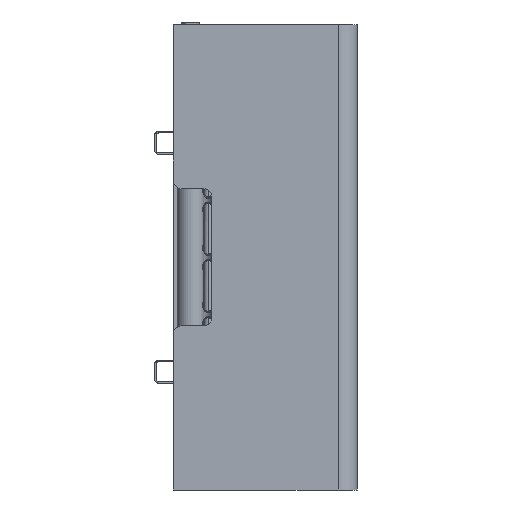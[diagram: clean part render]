
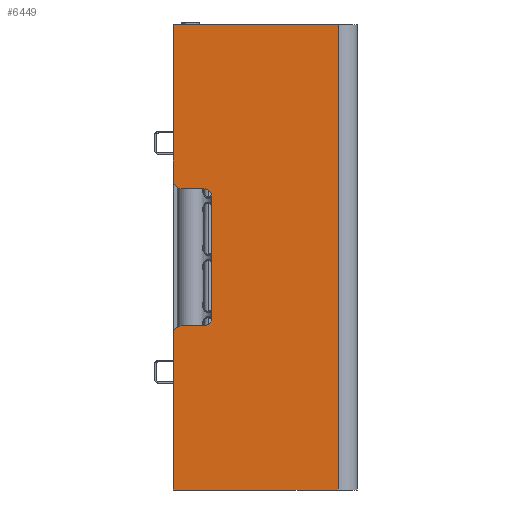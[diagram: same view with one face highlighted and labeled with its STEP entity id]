
A CAD part, front view. The second image highlights one B-rep face of the part: STEP entity #6449.
In plain terms, the highlighted planar face has unit normal (0, -1, 0).
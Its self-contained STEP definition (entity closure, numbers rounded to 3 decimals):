
#237 = LINE ( 'NONE', #22029, #19982 ) ;
#393 = VERTEX_POINT ( 'NONE', #16750 ) ;
#578 = DIRECTION ( 'NONE',  ( 0., 1., 0. ) ) ;
#664 = ORIENTED_EDGE ( 'NONE', *, *, #21180, .F. ) ;
#805 = CARTESIAN_POINT ( 'NONE',  ( 100., 0., 10. ) ) ;
#874 = EDGE_CURVE ( 'NONE', #12837, #21382, #2546, .T. ) ;
#910 = CARTESIAN_POINT ( 'NONE',  ( -80., 0., 50. ) ) ;
#1222 = VERTEX_POINT ( 'NONE', #3086 ) ;
#1744 = DIRECTION ( 'NONE',  ( 0., -1., 0. ) ) ;
#1998 = LINE ( 'NONE', #23759, #3424 ) ;
#2240 = VECTOR ( 'NONE', #10724, 1000. ) ;
#2368 = VERTEX_POINT ( 'NONE', #19361 ) ;
#2546 = LINE ( 'NONE', #15492, #12255 ) ;
#2606 = CARTESIAN_POINT ( 'NONE',  ( 90., 0., 40. ) ) ;
#2870 = EDGE_CURVE ( 'NONE', #6662, #1222, #6514, .T. ) ;
#3086 = CARTESIAN_POINT ( 'NONE',  ( 100., 0., 0. ) ) ;
#3205 = VERTEX_POINT ( 'NONE', #4247 ) ;
#3424 = VECTOR ( 'NONE', #8994, 1000. ) ;
#4075 = CARTESIAN_POINT ( 'NONE',  ( 305., 0., 216. ) ) ;
#4247 = CARTESIAN_POINT ( 'NONE',  ( -90., 0., 40. ) ) ;
#4534 = CIRCLE ( 'NONE', #21926, 10. ) ;
#4767 = ORIENTED_EDGE ( 'NONE', *, *, #19039, .T. ) ;
#4895 = ORIENTED_EDGE ( 'NONE', *, *, #6517, .F. ) ;
#5084 = DIRECTION ( 'NONE',  ( 0., -1., 0. ) ) ;
#5201 = EDGE_CURVE ( 'NONE', #2368, #18599, #12662, .T. ) ;
#6449 = ADVANCED_FACE ( 'NONE', ( #16374 ), #18307, .T. ) ;
#6514 = CIRCLE ( 'NONE', #8046, 10. ) ;
#6517 = EDGE_CURVE ( 'NONE', #17111, #22902, #13105, .T. ) ;
#6662 = VERTEX_POINT ( 'NONE', #22646 ) ;
#7221 = EDGE_CURVE ( 'NONE', #18599, #21382, #16685, .T. ) ;
#7390 = ORIENTED_EDGE ( 'NONE', *, *, #874, .F. ) ;
#7860 = EDGE_LOOP ( 'NONE', ( #10925, #22009, #16583, #16322, #19146, #7390, #664, #4767, #15238, #14715, #4895, #18933 ) ) ;
#7954 = CARTESIAN_POINT ( 'NONE',  ( -80., 0., 40. ) ) ;
#8046 = AXIS2_PLACEMENT_3D ( 'NONE', #805, #20873, #9630 ) ;
#8475 = CARTESIAN_POINT ( 'NONE',  ( -305., 0., 216. ) ) ;
#8793 = AXIS2_PLACEMENT_3D ( 'NONE', #7954, #578, #12073 ) ;
#8994 = DIRECTION ( 'NONE',  ( -1., 0., 0. ) ) ;
#9061 = CARTESIAN_POINT ( 'NONE',  ( 305., 0., 216. ) ) ;
#9208 = VECTOR ( 'NONE', #20223, 1000. ) ;
#9630 = DIRECTION ( 'NONE',  ( 0., 0., -1. ) ) ;
#9835 = VECTOR ( 'NONE', #23600, 1000. ) ;
#10173 = DIRECTION ( 'NONE',  ( 0., 0., -1. ) ) ;
#10347 = CIRCLE ( 'NONE', #14235, 10. ) ;
#10724 = DIRECTION ( 'NONE',  ( 0., 0., 1. ) ) ;
#10775 = DIRECTION ( 'NONE',  ( 0., 0., -1. ) ) ;
#10925 = ORIENTED_EDGE ( 'NONE', *, *, #10997, .T. ) ;
#10997 = EDGE_CURVE ( 'NONE', #23478, #6662, #15991, .T. ) ;
#11231 = CARTESIAN_POINT ( 'NONE',  ( -90., 0., 10. ) ) ;
#11333 = DIRECTION ( 'NONE',  ( 0., 0., -1. ) ) ;
#11365 = DIRECTION ( 'NONE',  ( -1., 0., 0. ) ) ;
#11998 = CARTESIAN_POINT ( 'NONE',  ( -100., 0., 10. ) ) ;
#12073 = DIRECTION ( 'NONE',  ( 0., 0., -1. ) ) ;
#12255 = VECTOR ( 'NONE', #20560, 1000. ) ;
#12662 = LINE ( 'NONE', #19904, #2240 ) ;
#12837 = VERTEX_POINT ( 'NONE', #22278 ) ;
#13105 = LINE ( 'NONE', #16610, #9208 ) ;
#14235 = AXIS2_PLACEMENT_3D ( 'NONE', #11998, #5084, #10775 ) ;
#14263 = EDGE_CURVE ( 'NONE', #3205, #22902, #15353, .T. ) ;
#14501 = EDGE_CURVE ( 'NONE', #17111, #23478, #4534, .T. ) ;
#14715 = ORIENTED_EDGE ( 'NONE', *, *, #14263, .T. ) ;
#14836 = CARTESIAN_POINT ( 'NONE',  ( 80., 0., 50. ) ) ;
#14912 = VECTOR ( 'NONE', #10173, 1000. ) ;
#15190 = DIRECTION ( 'NONE',  ( 0., 0., -1. ) ) ;
#15238 = ORIENTED_EDGE ( 'NONE', *, *, #23451, .F. ) ;
#15353 = CIRCLE ( 'NONE', #8793, 10. ) ;
#15428 = LINE ( 'NONE', #20980, #16217 ) ;
#15492 = CARTESIAN_POINT ( 'NONE',  ( -305., 0., 0. ) ) ;
#15991 = LINE ( 'NONE', #17561, #14912 ) ;
#16217 = VECTOR ( 'NONE', #15190, 1000. ) ;
#16322 = ORIENTED_EDGE ( 'NONE', *, *, #5201, .T. ) ;
#16374 = FACE_OUTER_BOUND ( 'NONE', #7860, .T. ) ;
#16583 = ORIENTED_EDGE ( 'NONE', *, *, #20127, .F. ) ;
#16610 = CARTESIAN_POINT ( 'NONE',  ( 90., 0., 50. ) ) ;
#16685 = LINE ( 'NONE', #9061, #9835 ) ;
#16750 = CARTESIAN_POINT ( 'NONE',  ( -100., 0., 0. ) ) ;
#17111 = VERTEX_POINT ( 'NONE', #14836 ) ;
#17561 = CARTESIAN_POINT ( 'NONE',  ( 90., 0., 50. ) ) ;
#17708 = AXIS2_PLACEMENT_3D ( 'NONE', #18423, #1744, #20469 ) ;
#18307 = PLANE ( 'NONE',  #17708 ) ;
#18423 = CARTESIAN_POINT ( 'NONE',  ( 305., 0., 0. ) ) ;
#18599 = VERTEX_POINT ( 'NONE', #4075 ) ;
#18933 = ORIENTED_EDGE ( 'NONE', *, *, #14501, .T. ) ;
#19039 = EDGE_CURVE ( 'NONE', #393, #20312, #10347, .T. ) ;
#19146 = ORIENTED_EDGE ( 'NONE', *, *, #7221, .T. ) ;
#19361 = CARTESIAN_POINT ( 'NONE',  ( 305., 0., 0. ) ) ;
#19904 = CARTESIAN_POINT ( 'NONE',  ( 305., 0., 0. ) ) ;
#19982 = VECTOR ( 'NONE', #11365, 1000. ) ;
#20127 = EDGE_CURVE ( 'NONE', #2368, #1222, #237, .T. ) ;
#20223 = DIRECTION ( 'NONE',  ( -1., 0., 0. ) ) ;
#20312 = VERTEX_POINT ( 'NONE', #11231 ) ;
#20469 = DIRECTION ( 'NONE',  ( 0., 0., -1. ) ) ;
#20520 = DIRECTION ( 'NONE',  ( 0., 1., 0. ) ) ;
#20560 = DIRECTION ( 'NONE',  ( 0., 0., 1. ) ) ;
#20873 = DIRECTION ( 'NONE',  ( 0., -1., 0. ) ) ;
#20980 = CARTESIAN_POINT ( 'NONE',  ( -90., 0., 50. ) ) ;
#21180 = EDGE_CURVE ( 'NONE', #393, #12837, #1998, .T. ) ;
#21382 = VERTEX_POINT ( 'NONE', #8475 ) ;
#21926 = AXIS2_PLACEMENT_3D ( 'NONE', #22110, #20520, #11333 ) ;
#22009 = ORIENTED_EDGE ( 'NONE', *, *, #2870, .T. ) ;
#22029 = CARTESIAN_POINT ( 'NONE',  ( 305., 0., 0. ) ) ;
#22110 = CARTESIAN_POINT ( 'NONE',  ( 80., 0., 40. ) ) ;
#22278 = CARTESIAN_POINT ( 'NONE',  ( -305., 0., 0. ) ) ;
#22646 = CARTESIAN_POINT ( 'NONE',  ( 90., 0., 10. ) ) ;
#22902 = VERTEX_POINT ( 'NONE', #910 ) ;
#23451 = EDGE_CURVE ( 'NONE', #3205, #20312, #15428, .T. ) ;
#23478 = VERTEX_POINT ( 'NONE', #2606 ) ;
#23600 = DIRECTION ( 'NONE',  ( -1., 0., 0. ) ) ;
#23759 = CARTESIAN_POINT ( 'NONE',  ( 305., 0., 0. ) ) ;
